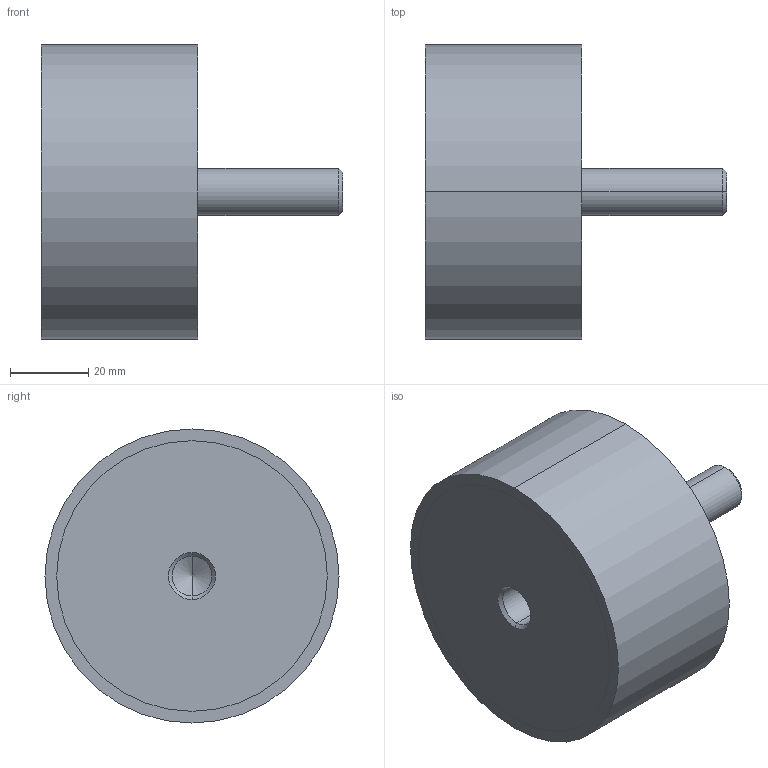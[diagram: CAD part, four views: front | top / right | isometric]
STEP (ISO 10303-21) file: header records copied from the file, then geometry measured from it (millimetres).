
FILE_DESCRIPTION (( 'STEP AP214' ), '1' );
FILE_NAME ('351-75-40-M12-ES-40.step', '2025-07-23T09:59:40', ( '' ), ( '' ), 'SwSTEP 2.0', 'SolidWorks 2022', '' );
FILE_SCHEMA (( 'AUTOMOTIVE_DESIGN' ));
Length unit declared in the file: millimetre
Products named in the file (1): 351-75-40-M12-ES-40
Bounding box: 77 x 75 x 75 mm (x, y, z)
Volume: 179611.5 mm3; surface area: 20062.5 mm2
Topology: 1 solids, 1 shells, 24 faces, 48 edges, 29 vertices
Faces by surface type: cylinder 12, cone 6, plane 6
Entity records: 740 total; most frequent: DIRECTION 124, CARTESIAN_POINT 100, ORIENTED_EDGE 92, AXIS2_PLACEMENT_3D 53, EDGE_CURVE 46, VERTEX_POINT 29, EDGE_LOOP 29, CIRCLE 28
